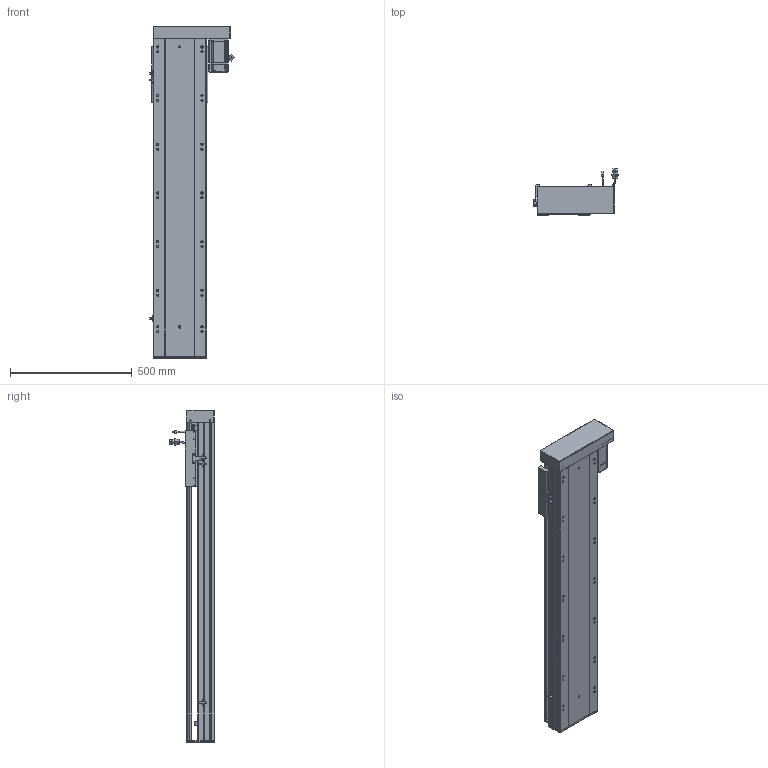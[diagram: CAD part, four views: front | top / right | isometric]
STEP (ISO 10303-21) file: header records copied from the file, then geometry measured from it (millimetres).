
FILE_DESCRIPTION (( 'STEP AP203' ), '1' );
FILE_NAME ('RY220-L2525-800-RK-邧嶺.SLDASM_950.step', '2022-08-06T08:52:43', ( '' ), ( '' ), 'SwSTEP 2.0', 'SolidWorks 2016', '' );
FILE_SCHEMA (( 'CONFIG_CONTROL_DESIGN' ));
Length unit declared in the file: millimetre
Products named in the file (12): 滅袉蝶18-15; 覜茼ん672; RY220-俋离672覜茼んえ; RY220-800-蛌殏奻裔啣_950; RY220蛌殏菁釱-800-邧嶺_950; 怢湛750W_ECMA-CX0807ES; RY220半封闭25-32螺母铝滑块; RY220酘衵殏萇儂欶; RY220綴裔啣; 滅袉蝶18-10; RY220-L2525-800-RK-邧嶺.SLDASM_950; RY220左右折电机安装板
Assembly tree (15 placements, depth 2):
  RY220-L2525-800-RK-邧嶺.SLDASM_950
    RY220蛌殏菁釱-800-邧嶺_950
    RY220-800-蛌殏奻裔啣_950
    怢湛750W_ECMA-CX0807ES
    滅袉蝶18-10  x2
    RY220-俋离672覜茼んえ
    覜茼ん672  x3
    RY220綴裔啣
    RY220半封闭25-32螺母铝滑块
    滅袉蝶18-15  x2
    RY220左右折电机安装板
    RY220酘衵殏萇儂欶
Bounding box: 347.44 x 187.27 x 1364 mm (x, y, z)
Volume: 11413632.6 mm3; surface area: 3335896.5 mm2
Topology: 16 solids, 16 shells, 2167 faces, 5976 edges, 3779 vertices
Faces by surface type: cylinder 971, plane 904, cone 222, bspline 44, sphere 16, torus 10
Entity records: 71427 total; most frequent: CARTESIAN_POINT 20691, ORIENTED_EDGE 10536, DIRECTION 9896, EDGE_CURVE 5268, AXIS2_PLACEMENT_3D 3469, VERTEX_POINT 3435, VECTOR 2958, LINE 2958
